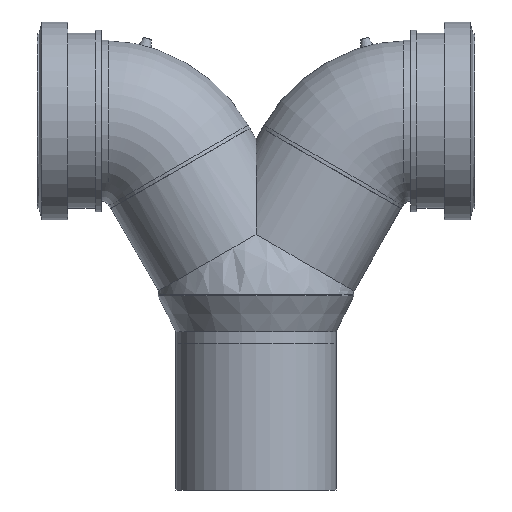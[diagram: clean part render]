
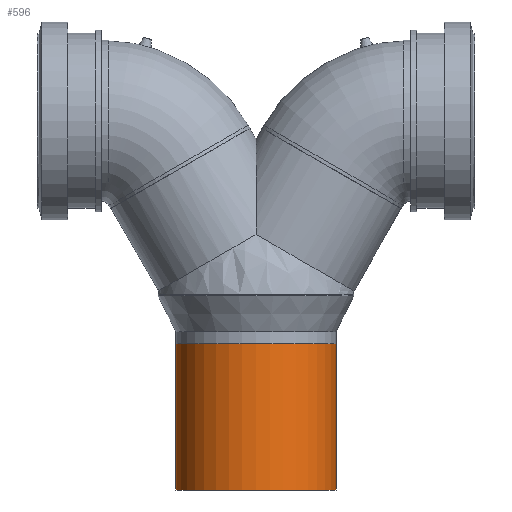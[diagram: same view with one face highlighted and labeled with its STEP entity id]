
A CAD part, front view. The second image highlights one B-rep face of the part: STEP entity #596.
In plain terms, the highlighted cylindrical face has radius 45 mm (diameter 90 mm), a full revolution.
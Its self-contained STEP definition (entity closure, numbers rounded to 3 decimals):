
#94=FACE_BOUND($,#190,.T.);
#153=FACE_OUTER_BOUND($,#189,.T.);
#189=EDGE_LOOP($,(#428));
#190=EDGE_LOOP($,(#429));
#283=CIRCLE($,#657,45.);
#284=CIRCLE($,#658,45.);
#330=VERTEX_POINT($,#1013);
#331=VERTEX_POINT($,#1015);
#378=EDGE_CURVE($,#330,#330,#283,.T.);
#379=EDGE_CURVE($,#331,#331,#284,.T.);
#428=ORIENTED_EDGE($,*,*,#378,.T.);
#429=ORIENTED_EDGE($,*,*,#379,.F.);
#527=CYLINDRICAL_SURFACE($,#656,45.);
#596=ADVANCED_FACE($,(#153,#94),#527,.T.);
#656=AXIS2_PLACEMENT_3D($,#1012,#778,#779);
#657=AXIS2_PLACEMENT_3D($,#1014,#780,#781);
#658=AXIS2_PLACEMENT_3D($,#1016,#782,#783);
#778=DIRECTION('center_axis',(0.,0.,1.));
#779=DIRECTION('ref_axis',(-1.,0.,0.));
#780=DIRECTION('center_axis',(0.,0.,-1.));
#781=DIRECTION('ref_axis',(-1.,0.,0.));
#782=DIRECTION('center_axis',(0.,0.,-1.));
#783=DIRECTION('ref_axis',(-1.,0.,0.));
#1012=CARTESIAN_POINT('Origin',(0.,0.,0.));
#1013=CARTESIAN_POINT('',(45.,0.,82.));
#1014=CARTESIAN_POINT('Origin',(0.,0.,82.));
#1015=CARTESIAN_POINT('',(45.,0.,0.));
#1016=CARTESIAN_POINT('Origin',(0.,0.,0.));
